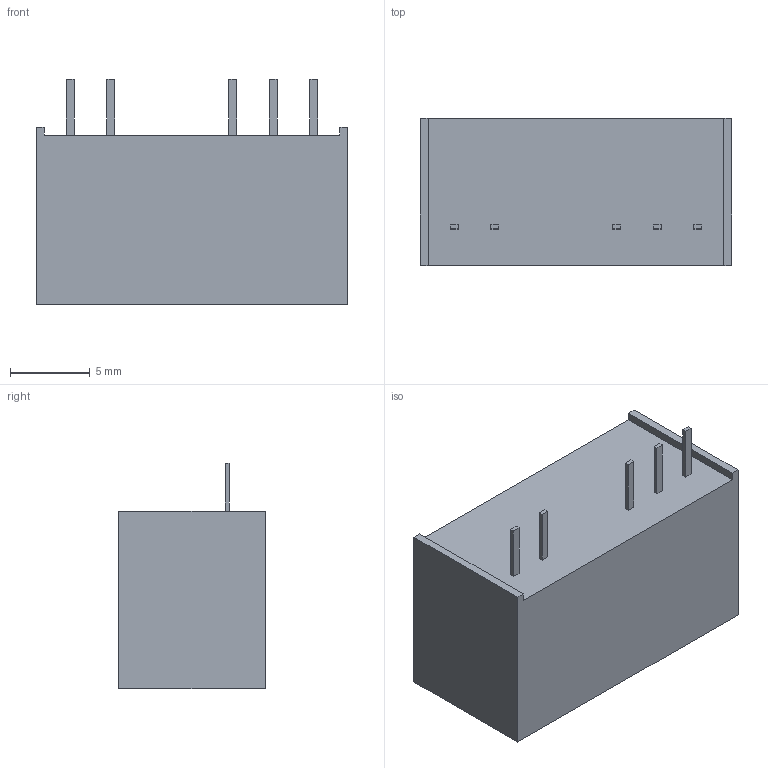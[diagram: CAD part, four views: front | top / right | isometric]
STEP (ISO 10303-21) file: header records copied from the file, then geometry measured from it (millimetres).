
FILE_DESCRIPTION(/* description */ ('Unknown'),/* implementation_level */ '2;1');
FILE_NAME(/* name */ 'IMA01(D)',/* time_stamp */ '2017-11-28T16:40:21+08:00',/* author */ ('Unknown'),/* organization */ ('Unknown'),/* preprocessor_version */ 'ST-DEVELOPER v16.7',/* originating_system */ 'DEX',/* authorisation */ $);
FILE_SCHEMA (('AUTOMOTIVE_DESIGN {1 0 10303 214 3 1 1}'));
Length unit declared in the file: millimetre
Products named in the file (1): IMA01(D)
Bounding box: 19.5 x 9.2 x 14.1 mm (x, y, z)
Volume: 1908.4 mm3; surface area: 1012.9 mm2
Topology: 1 solids, 1 shells, 35 faces, 84 edges, 56 vertices
Faces by surface type: plane 35
Entity records: 1028 total; most frequent: CARTESIAN_POINT 176, ORIENTED_EDGE 168, DIRECTION 156, EDGE_CURVE 84, LINE 84, VECTOR 84, VERTEX_POINT 56, EDGE_LOOP 40
